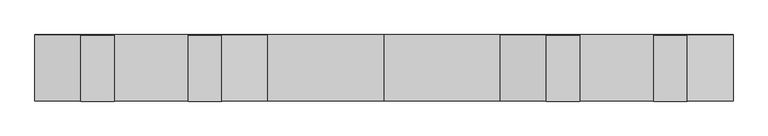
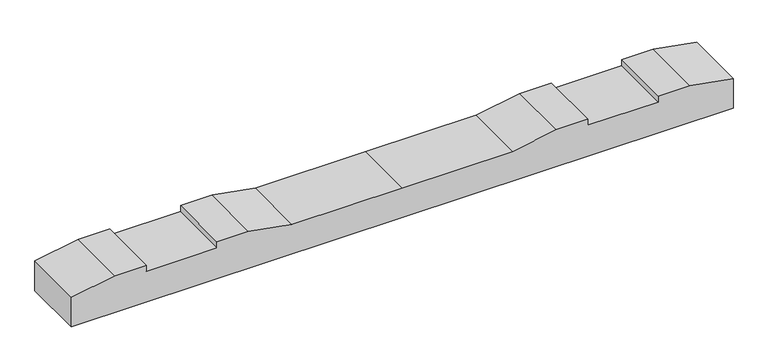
"""IFC4 building model written with IfcOpenShell, lengths in millimetres: proxy geometry, 轨枕-立面角度 : 轨枕-立面角度."""

import ifcopenshell
import ifcopenshell.guid

model = None  # the IFC model being written
_history = None  # IfcOwnerHistory: only IFC2X3 demands one
_inside = {}  # id of a spatial element -> (the spatial element, [elements in it])
_under = {}  # id of a project, library or spatial element -> (it, [spatial elements below it])
_declared = {}  # id of a project -> (the project, [libraries it declares])
_typed = {}  # id of a type object -> (the type object, [elements of that type])
_made_of = {}  # id of a material, layer set ... -> (it, [elements and type objects made of it])


def new_model(schema):
    """Start an empty IFC model of exactly this schema.

    Asked for "IFC4X3", IfcOpenShell would pick the latest addendum, in which some entities
    have other attributes; the version numbers below select the first issue.
    IFC2X3 requires an IfcOwnerHistory on every rooted entity: one is made here for all.
    """
    global model, _history
    if schema == "IFC4X3":
        model = ifcopenshell.file(schema_version=(4, 3, 0, 0))
    else:
        model = ifcopenshell.file(schema=schema)
    _inside.clear()
    _under.clear()
    _declared.clear()
    _typed.clear()
    _made_of.clear()
    _history = None
    if model.schema == "IFC2X3":
        org = make("IfcOrganization", Name="unknown")
        user = make(
            "IfcPersonAndOrganization",
            ThePerson=make("IfcPerson", FamilyName="unknown"),
            TheOrganization=org,
        )
        app = make(
            "IfcApplication",
            ApplicationDeveloper=org,
            Version="unknown",
            ApplicationFullName="unknown",
            ApplicationIdentifier="unknown",
        )
        _history = make(
            "IfcOwnerHistory",
            OwningUser=user,
            OwningApplication=app,
            ChangeAction="ADDED",
            CreationDate=0,
        )
    return model


def make(cls, **values):
    """One entity of the class cls with the attributes given. An attribute that is None is left unset."""
    return model.create_entity(
        cls, **{name: value for name, value in values.items() if value is not None}
    )


def rooted(cls, **values):
    """An entity with a GlobalId (a new one), such as an element, a storey or a relation."""
    return make(cls, GlobalId=ifcopenshell.guid.new(), OwnerHistory=_history, **values)


def si_unit(unit_type, name, prefix=None):
    """IfcSIUnit, for example si_unit("LENGTHUNIT", "METRE", prefix="MILLI")."""
    return make("IfcSIUnit", UnitType=unit_type, Prefix=prefix, Name=name)


def assignment(units):
    """IfcUnitAssignment: the units of a project."""
    return None if units is None else make("IfcUnitAssignment", Units=units)


def point(xyz):
    """IfcCartesianPoint."""
    return None if xyz is None else make("IfcCartesianPoint", Coordinates=xyz)


def direction(xyz):
    """IfcDirection."""
    return None if xyz is None else make("IfcDirection", DirectionRatios=xyz)


def frame(location, z_axis=None, x_axis=None):
    """IfcAxis2Placement3D, a coordinate frame: its origin and axes. An axis left out is left unset."""
    return make(
        "IfcAxis2Placement3D",
        Location=point(location),
        Axis=direction(z_axis),
        RefDirection=direction(x_axis),
    )


def origin():
    """The frame at (0, 0, 0) with its axes left unset."""
    return frame((0.0, 0.0, 0.0))


def place(relative_to, where):
    """IfcLocalPlacement: puts the frame where relative to a parent placement (None: the world)."""
    return make(
        "IfcLocalPlacement", PlacementRelTo=relative_to, RelativePlacement=where
    )


def context(
    kind, dimensions, precision=None, world=None, true_north=None, identifier=None
):
    """IfcGeometricRepresentationContext, for example the 3D "Model" context."""
    return make(
        "IfcGeometricRepresentationContext",
        ContextIdentifier=identifier,
        ContextType=kind,
        CoordinateSpaceDimension=dimensions,
        Precision=precision,
        WorldCoordinateSystem=world,
        TrueNorth=true_north,
    )


def project(units=None, contexts=None):
    """IfcProject with its units and contexts."""
    return rooted(
        "IfcProject",
        Name="project",
        RepresentationContexts=contexts,
        UnitsInContext=assignment(units),
    )


def spatial(cls, under=None, at=None, **own):
    """A site, building, storey or space (cls), placed at a placement, below another one or the project."""
    s = rooted(cls, ObjectPlacement=at, **own)
    if under is not None:
        _under.setdefault(under.id(), (under, []))[1].append(s)
    return s


def polyline(points):
    """IfcPolyline through the points."""
    return make("IfcPolyline", Points=[point(p) for p in points])


def outline(outer, holes=None, kind="AREA"):
    """IfcArbitraryClosedProfileDef: a profile drawn as a closed curve; with holes, ...WithVoids."""
    if holes is None:
        return make("IfcArbitraryClosedProfileDef", ProfileType=kind, OuterCurve=outer)
    return make(
        "IfcArbitraryProfileDefWithVoids",
        ProfileType=kind,
        OuterCurve=outer,
        InnerCurves=holes,
    )


def extrude(swept, where, along, depth):
    """IfcExtrudedAreaSolid: the profile swept, set in the frame where, extruded along a direction by depth."""
    return make(
        "IfcExtrudedAreaSolid",
        SweptArea=swept,
        Position=where,
        ExtrudedDirection=direction(along),
        Depth=depth,
    )


def shape(context_of_items, identifier, shape_type, items):
    """IfcShapeRepresentation: the items that make up one representation, for example the "Body"."""
    return make(
        "IfcShapeRepresentation",
        ContextOfItems=context_of_items,
        RepresentationIdentifier=identifier,
        RepresentationType=shape_type,
        Items=items,
    )


def source(mapping_origin, context_of_items, identifier, shape_type, items):
    """IfcRepresentationMap: a shape defined once, which mapped items show again and again."""
    return make(
        "IfcRepresentationMap",
        MappingOrigin=mapping_origin,
        MappedRepresentation=shape(context_of_items, identifier, shape_type, items),
    )


def transform(
    local_origin,
    x_axis=None,
    y_axis=None,
    z_axis=None,
    scale=None,
    scale2=None,
    scale3=None,
    uniform=True,
):
    """IfcCartesianTransformationOperator3D, or its non-uniform kind. x_axis, y_axis, z_axis: its Axis1, 2, 3."""
    if uniform:
        return make(
            "IfcCartesianTransformationOperator3D",
            Axis1=direction(x_axis),
            Axis2=direction(y_axis),
            LocalOrigin=point(local_origin),
            Scale=scale,
            Axis3=direction(z_axis),
        )
    return make(
        "IfcCartesianTransformationOperator3DnonUniform",
        Axis1=direction(x_axis),
        Axis2=direction(y_axis),
        LocalOrigin=point(local_origin),
        Scale=scale,
        Axis3=direction(z_axis),
        Scale2=scale2,
        Scale3=scale3,
    )


def mapped(mapping_source, mapping_target):
    """IfcMappedItem: shows the shape of a source again, moved by a transform."""
    return make(
        "IfcMappedItem", MappingSource=mapping_source, MappingTarget=mapping_target
    )


def made_of(thing, what):
    """Note that an element or type object is made of a material, layer set ...; save() writes the relation."""
    if what is not None:
        _made_of.setdefault(what.id(), (what, []))[1].append(thing)
    return thing


def element(
    cls,
    number,
    at=None,
    inside=None,
    cuts=None,
    type_object=None,
    material=None,
    context=None,
    identifier="Body",
    shape_type=None,
    held_by="IfcProductDefinitionShape",
    body=None,
    shapes=None,
    **own,
):
    """One element of the class cls, such as IfcWall. Its Tag is "e" and its number.

    at: its placement. inside: the storey or other place that contains it. cuts: it is an
    opening in that element (IfcRelVoidsElement). A single representation is given by context,
    identifier, shape_type and body (its items); several are given by shapes. held_by: the class
    of the entity that holds the representations. save() writes the other relations.
    """
    e = rooted(cls, Tag="e%d" % number, ObjectPlacement=at, **own)
    if body is not None:
        shapes = [shape(context, identifier, shape_type, body)]
    if shapes is not None:
        e.Representation = make(held_by, Representations=shapes)
    if inside is not None:
        _inside.setdefault(inside.id(), (inside, []))[1].append(e)
    if cuts is not None:
        rooted(
            "IfcRelVoidsElement", RelatingBuildingElement=cuts, RelatedOpeningElement=e
        )
    if type_object is not None:
        _typed.setdefault(type_object.id(), (type_object, []))[1].append(e)
    return made_of(e, material)


def aggregate(whole, parts):
    """IfcRelAggregates: a whole, such as a stair, and the parts it consists of."""
    return rooted("IfcRelAggregates", RelatingObject=whole, RelatedObjects=parts)


def save(model, path):
    """Write the relations noted so far, then the file.

    IfcRelAggregates (storeys below a building ...), IfcRelContainedInSpatialStructure (elements
    in a storey), IfcRelDefinesByType, IfcRelAssociatesMaterial and IfcRelDeclares: one each for
    every whole, place, type object, material and project.
    """
    for whole, parts in _under.values():
        aggregate(whole, parts)
    for where, things in _inside.values():
        rooted(
            "IfcRelContainedInSpatialStructure",
            RelatedElements=things,
            RelatingStructure=where,
        )
    for kind, things in _typed.values():
        rooted("IfcRelDefinesByType", RelatedObjects=things, RelatingType=kind)
    for what, things in _made_of.values():
        rooted("IfcRelAssociatesMaterial", RelatedObjects=things, RelatingMaterial=what)
    for by, libraries in _declared.values():
        rooted("IfcRelDeclares", RelatingContext=by, RelatedDefinitions=libraries)
    model.write(path)


def generic_models_3818f4c7(model_context):
    return source(origin(), model_context, "Body", "SweptSolid", [
        extrude(outline(polyline([(0.0, 0.0), (2099.7669328, 0.0), (2099.7669328, -100.020689), (1961.8834664, -124.5000001), (1861.8834664, -124.5000001), (1861.8834664, -104.5), (1637.8834664, -104.5), (1637.8834664, -124.5000001), (1537.8834664, -124.5000001), (1399.8834664, -100.0), (1049.8834664, -100.0), (699.8834664, -100.0), (561.8834664, -124.5000001), (461.8834664, -124.5000001), (461.8834664, -104.5), (237.8834664, -104.5), (237.8834664, -124.5000001), (137.8834664, -124.5000001), (0.0, -100.020689), (0.0, 0.0)])), frame((-1049.8834664, -99.7514784, -104.7372549), z_axis=(0.0, 0.9999971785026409, 0.0023754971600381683), x_axis=(1.0, 0.0, 0.0)), (0.0, 0.0, 1.0), 200.0),
    ])


if __name__ == "__main__":
    model = new_model("IFC4")
    model_context = context("Model", 3, world=origin())
    ifc_project = project(units=[si_unit("LENGTHUNIT", "METRE", prefix="MILLI")], contexts=[model_context])
    site = spatial("IfcSite", under=ifc_project)
    building = spatial("IfcBuilding", under=site)
    placement = place(None, origin())
    generic_models_shape = generic_models_3818f4c7(model_context)
    element("IfcBuildingElementProxy", 1, Name="轨枕-立面角度 : 轨枕-立面角度", ObjectType="轨枕-立面角度 : 轨枕-立面角度", at=placement, inside=building, context=model_context, shape_type="MappedRepresentation", body=[
        mapped(generic_models_shape, transform((0.0, 0.0, 0.0), x_axis=(1.0, 0.0, 0.0), y_axis=(0.0, 1.0, 0.0), z_axis=(0.0, 0.0, 1.0))),
    ])
    save(model, "model.ifc")
